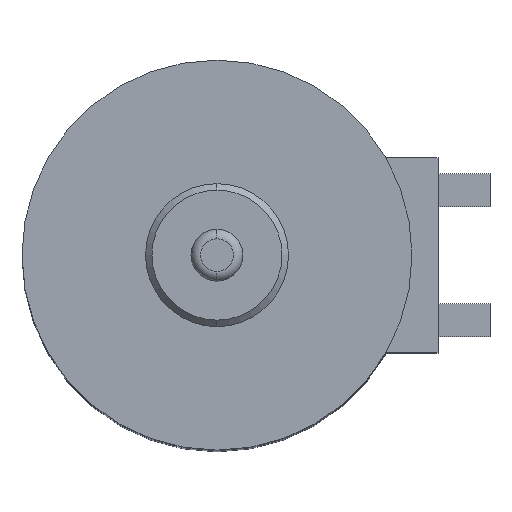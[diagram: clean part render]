
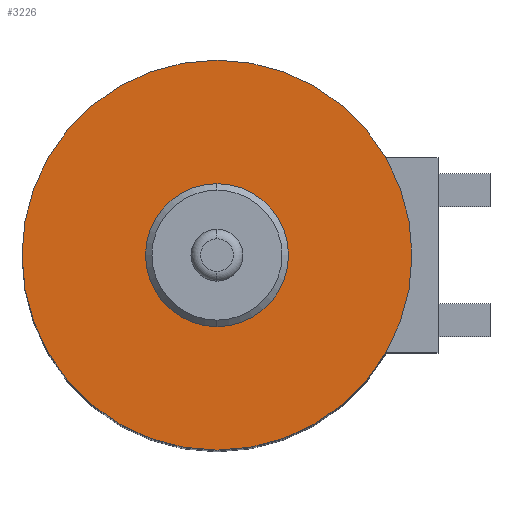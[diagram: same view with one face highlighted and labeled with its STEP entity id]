
A CAD part, top view. The second image highlights one B-rep face of the part: STEP entity #3226.
In plain terms, the highlighted planar face has unit normal (0, 0, 1).
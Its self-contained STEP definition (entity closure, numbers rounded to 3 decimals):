
#114 = FACE_OUTER_BOUND ( 'NONE', #596, .T. ) ;
#320 = VERTEX_POINT ( 'NONE', #5811 ) ;
#328 = ORIENTED_EDGE ( 'NONE', *, *, #5036, .T. ) ;
#596 = EDGE_LOOP ( 'NONE', ( #328, #4916 ) ) ;
#631 = CARTESIAN_POINT ( 'NONE',  ( -0.04, -0.987, 5.15 ) ) ;
#672 = CARTESIAN_POINT ( 'NONE',  ( -0.04, 0.113, 5.15 ) ) ;
#714 = CIRCLE ( 'NONE', #4086, 1.1 ) ;
#1167 = DIRECTION ( 'NONE',  ( 0., 0., 1. ) ) ;
#1213 = DIRECTION ( 'NONE',  ( 0., -1., 0. ) ) ;
#1344 = EDGE_CURVE ( 'NONE', #4071, #320, #4530, .T. ) ;
#1716 = AXIS2_PLACEMENT_3D ( 'NONE', #1757, #2275, #6022 ) ;
#1757 = CARTESIAN_POINT ( 'NONE',  ( -0.04, 0.113, 5.15 ) ) ;
#1849 = AXIS2_PLACEMENT_3D ( 'NONE', #2667, #6404, #3218 ) ;
#2275 = DIRECTION ( 'NONE',  ( 0., 0., 1. ) ) ;
#2372 = CIRCLE ( 'NONE', #1849, 3. ) ;
#2484 = VERTEX_POINT ( 'NONE', #3807 ) ;
#2604 = CARTESIAN_POINT ( 'NONE',  ( -0.04, 0.113, 5.15 ) ) ;
#2667 = CARTESIAN_POINT ( 'NONE',  ( -0.04, 0.113, 5.15 ) ) ;
#2800 = PLANE ( 'NONE',  #1716 ) ;
#2920 = VERTEX_POINT ( 'NONE', #6271 ) ;
#3040 = EDGE_CURVE ( 'NONE', #2920, #2484, #2372, .T. ) ;
#3143 = FACE_BOUND ( 'NONE', #4585, .T. ) ;
#3150 = DIRECTION ( 'NONE',  ( 0., -1., 0. ) ) ;
#3218 = DIRECTION ( 'NONE',  ( 0., -1., 0. ) ) ;
#3226 = ADVANCED_FACE ( 'NONE', ( #114, #3143 ), #2800, .T. ) ;
#3807 = CARTESIAN_POINT ( 'NONE',  ( -0.04, 3.113, 5.15 ) ) ;
#4071 = VERTEX_POINT ( 'NONE', #631 ) ;
#4076 = ORIENTED_EDGE ( 'NONE', *, *, #1344, .F. ) ;
#4086 = AXIS2_PLACEMENT_3D ( 'NONE', #4384, #1167, #4913 ) ;
#4384 = CARTESIAN_POINT ( 'NONE',  ( -0.04, 0.113, 5.15 ) ) ;
#4435 = DIRECTION ( 'NONE',  ( 0., 0., 1. ) ) ;
#4490 = AXIS2_PLACEMENT_3D ( 'NONE', #2604, #6339, #3150 ) ;
#4530 = CIRCLE ( 'NONE', #4490, 1.1 ) ;
#4585 = EDGE_LOOP ( 'NONE', ( #4594, #4076 ) ) ;
#4594 = ORIENTED_EDGE ( 'NONE', *, *, #4989, .F. ) ;
#4913 = DIRECTION ( 'NONE',  ( 0., -1., 0. ) ) ;
#4916 = ORIENTED_EDGE ( 'NONE', *, *, #3040, .T. ) ;
#4989 = EDGE_CURVE ( 'NONE', #320, #4071, #714, .T. ) ;
#5036 = EDGE_CURVE ( 'NONE', #2484, #2920, #5743, .T. ) ;
#5743 = CIRCLE ( 'NONE', #5868, 3. ) ;
#5811 = CARTESIAN_POINT ( 'NONE',  ( -0.04, 1.213, 5.15 ) ) ;
#5868 = AXIS2_PLACEMENT_3D ( 'NONE', #672, #4435, #1213 ) ;
#6022 = DIRECTION ( 'NONE',  ( 0., -1., 0. ) ) ;
#6271 = CARTESIAN_POINT ( 'NONE',  ( -0.04, -2.887, 5.15 ) ) ;
#6339 = DIRECTION ( 'NONE',  ( 0., 0., 1. ) ) ;
#6404 = DIRECTION ( 'NONE',  ( 0., 0., 1. ) ) ;
